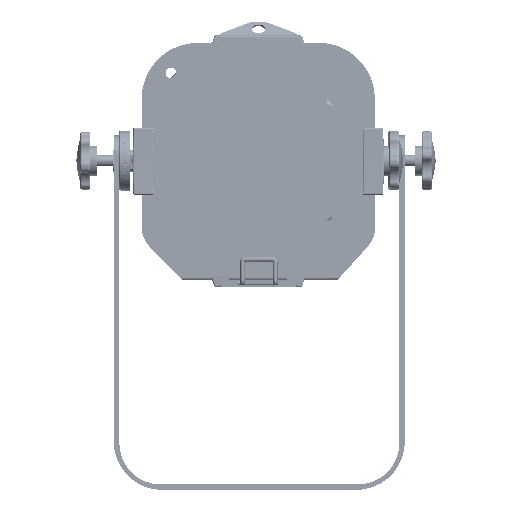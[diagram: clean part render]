
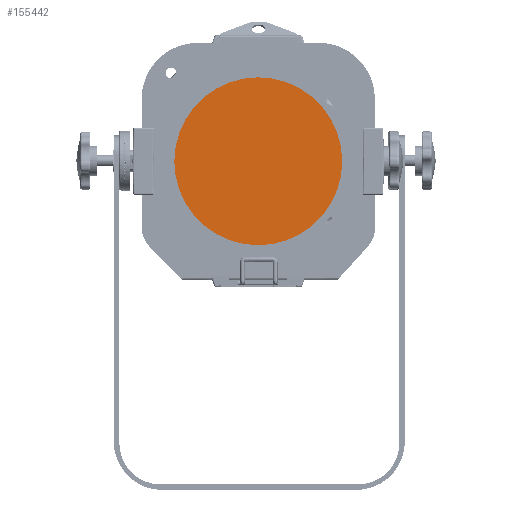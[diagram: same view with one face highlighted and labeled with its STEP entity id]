
A CAD part, front view. The second image highlights one B-rep face of the part: STEP entity #155442.
In plain terms, the highlighted planar face has unit normal (0, -1, 0) as drawn and (0, 1, 0) by its records, which use the part's own axes.
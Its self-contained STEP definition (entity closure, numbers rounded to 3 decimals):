
#15206 = ORIENTED_EDGE ( 'NONE', *, *, #33015, .T. ) ;
#23178 = AXIS2_PLACEMENT_3D ( 'NONE', #275625, #51816, #98012 ) ;
#29231 = CARTESIAN_POINT ( 'NONE',  ( 0., 0., 0. ) ) ;
#33015 = EDGE_CURVE ( 'NONE', #72498, #72498, #132766, .T. ) ;
#44615 = EDGE_LOOP ( 'NONE', ( #15206 ) ) ;
#51816 = DIRECTION ( 'NONE',  ( 0., 1., 0. ) ) ;
#72498 = VERTEX_POINT ( 'NONE', #185764 ) ;
#98012 = DIRECTION ( 'NONE',  ( 0., 0., 1. ) ) ;
#120179 = DIRECTION ( 'NONE',  ( 0., 1., 0. ) ) ;
#132766 = CIRCLE ( 'NONE', #23178, 45.5 ) ;
#142563 = PLANE ( 'NONE',  #292501 ) ;
#145483 = FACE_OUTER_BOUND ( 'NONE', #44615, .T. ) ;
#155442 = ADVANCED_FACE ( 'NONE', ( #145483 ), #142563, .T. ) ;
#185764 = CARTESIAN_POINT ( 'NONE',  ( 0., 0., 45.5 ) ) ;
#211158 = DIRECTION ( 'NONE',  ( 0., 0., 1. ) ) ;
#275625 = CARTESIAN_POINT ( 'NONE',  ( 0., 0., 0. ) ) ;
#292501 = AXIS2_PLACEMENT_3D ( 'NONE', #29231, #120179, #211158 ) ;
